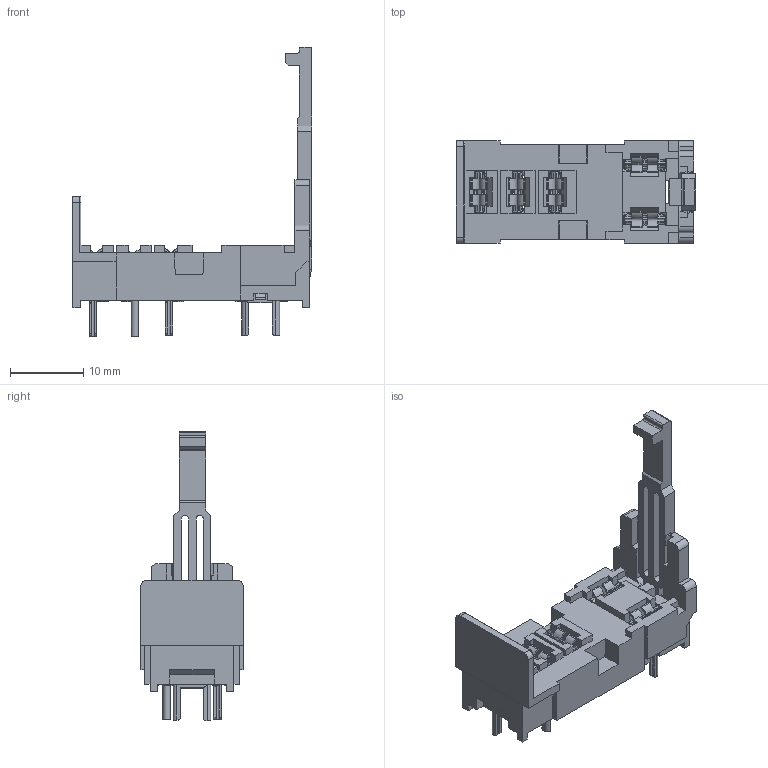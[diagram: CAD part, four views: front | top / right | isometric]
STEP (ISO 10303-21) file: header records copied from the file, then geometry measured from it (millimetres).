
FILE_DESCRIPTION(/* description */ (''),/* implementation_level */ '2;1');
FILE_NAME(/* name */ 'HT1S-61_ZP.stp',/* time_stamp */ '2019-03-20T14:22:57+08:00',/* author */ (''),/* organization */ (''),/* preprocessor_version */ 'ST-DEVELOPER v16.7',/* originating_system */ 'SIEMENS PLM Software NX 12.0',/* authorisation */ '');
FILE_SCHEMA (('AUTOMOTIVE_DESIGN { 1 0 10303 214 3 1 1 1 }'));
Length unit declared in the file: millimetre
Products named in the file (4): HT8.205.002; HT7.810.007; HT7.730.036; HT1S-61_ZP
Assembly tree (7 placements, depth 2):
  HT1S-61_ZP
    HT7.730.036  x5
    HT7.810.007
    HT8.205.002
Bounding box: 32.8 x 14 x 39.66 mm (x, y, z)
Volume: 2250 mm3; surface area: 4789.5 mm2
Topology: 7 solids, 7 shells, 1271 faces, 3518 edges, 2286 vertices
Faces by surface type: plane 897, cylinder 239, extrusion 88, bspline 40, cone 5, torus 2
Full cylindrical faces by diameter (mm): 0.4 x10, 1.65 x2
Entity records: 23701 total; most frequent: CARTESIAN_POINT 5034, ORIENTED_EDGE 4036, DIRECTION 3567, EDGE_CURVE 2018, VECTOR 1701, LINE 1673, VERTEX_POINT 1320, AXIS2_PLACEMENT_3D 933
